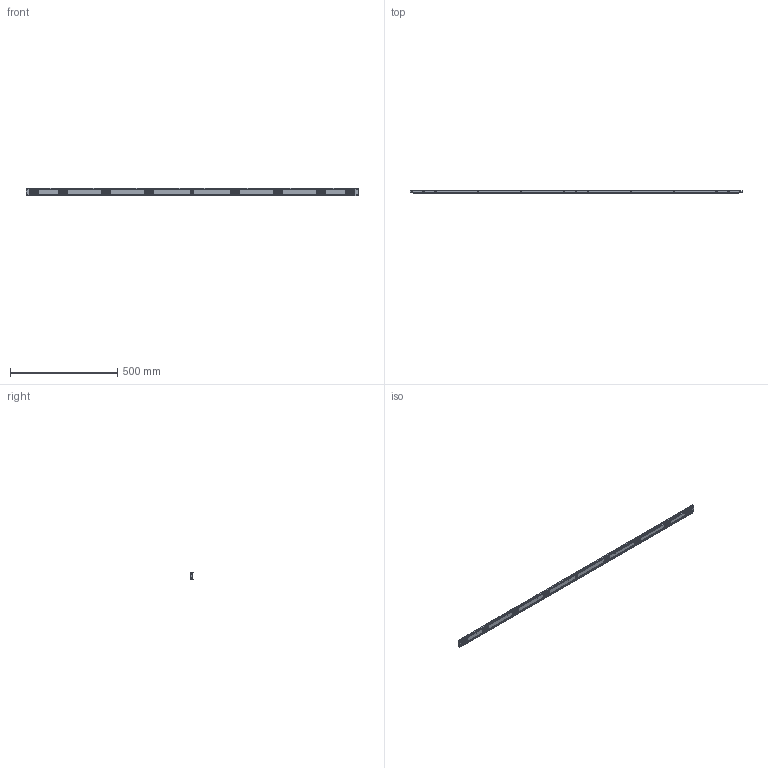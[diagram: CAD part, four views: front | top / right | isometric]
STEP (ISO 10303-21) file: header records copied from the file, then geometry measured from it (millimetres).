
FILE_DESCRIPTION(('Creo Elements/Direct Modeling STEP Export'),'2;1');
FILE_NAME('B3-1440.stp','2020-11-02T11:54:46',(''),(''),'Creo Elements/Direct Modeling STEP processor for AP214 (Solid Model)','Creo Elements/Direct Modeling 19.0G 27-Nov-2017 (C) Parametric Technology GmbH','');
FILE_SCHEMA(('AUTOMOTIVE_DESIGN { 1 0 10303 214 1 1 1 1 }'));
Products named in the file (2): PERFIL_SOPORTE_MECANIZADO_REGLA_SV3-1440
Assembly tree (1 placements, depth 2):
  PERFIL_SOPORTE_MECANIZADO_REGLA_SV3-1440
    PERFIL_SOPORTE_MECANIZADO_REGLA_SV3-1440
Bounding box: 1545 x 12.13 x 36.1 mm (x, y, z)
Volume: 368066.4 mm3; surface area: 195095.9 mm2
Topology: 1 solids, 1 shells, 2068 faces, 6114 edges, 4050 vertices
Faces by surface type: plane 1162, cylinder 694, cone 132, torus 40, bspline 40
Entity records: 77277 total; most frequent: CARTESIAN_POINT 16942, ORIENTED_EDGE 12204, DIRECTION 10332, EDGE_CURVE 6102, VERTEX_POINT 4050, VECTOR 3480, LINE 3480, AXIS2_PLACEMENT_3D 3426
